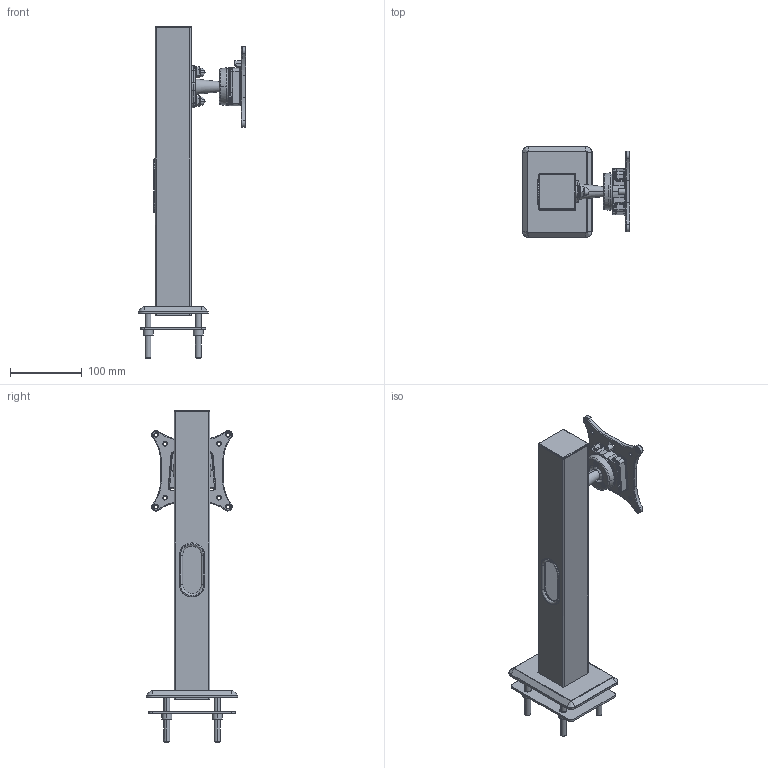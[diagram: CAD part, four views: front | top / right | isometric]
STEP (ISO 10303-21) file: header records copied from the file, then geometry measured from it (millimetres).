
FILE_DESCRIPTION(/* description */ (''),/* implementation_level */ '2;1');
FILE_NAME(/* name */ 'BL100',/* time_stamp */ '2018-05-18T15:28:31+08:00',/* author */ (''),/* organization */ (''),/* preprocessor_version */ 'ST-DEVELOPER v15',/* originating_system */ '',/* authorisation */ '');
FILE_SCHEMA (('CONFIG_CONTROL_DESIGN'));
Length unit declared in the file: millimetre
Products named in the file (12): Document; k100-waifa-2_id10_x_t; k100-waifa-2_id34_x_t; k100-waifa-2_id138_x_t; k100-waifa-2_id214_x_t; PRT0051_1_1; PRT0050_1_2; PRT0049_1_2; PRT0048_1_3; BL-FE-04_2; M8YAMAOLUOMU_2; BL-FE-03-02_2
Assembly tree (17 placements, depth 2):
  Document
    k100-waifa-2_id10_x_t
    k100-waifa-2_id34_x_t
    k100-waifa-2_id138_x_t
    k100-waifa-2_id214_x_t
    PRT0051_1_1  x2
    PRT0050_1_2  x2
    PRT0049_1_2  x2
    PRT0048_1_3
    BL-FE-04_2
    M8YAMAOLUOMU_2  x4
    BL-FE-03-02_2
Bounding box: 149.27 x 127 x 462 mm (x, y, z)
Volume: 434659.8 mm3; surface area: 268769.6 mm2
Topology: 25 solids, 28 shells, 1129 faces, 2984 edges, 1903 vertices
Faces by surface type: bspline 855, plane 274
Entity records: 64711 total; most frequent: CARTESIAN_POINT 48433, ORIENTED_EDGE 5169, EDGE_CURVE 2598, B_SPLINE_CURVE_WITH_KNOTS 1662, VERTEX_POINT 1656, EDGE_LOOP 1075, ADVANCED_FACE 990, FACE_OUTER_BOUND 990
